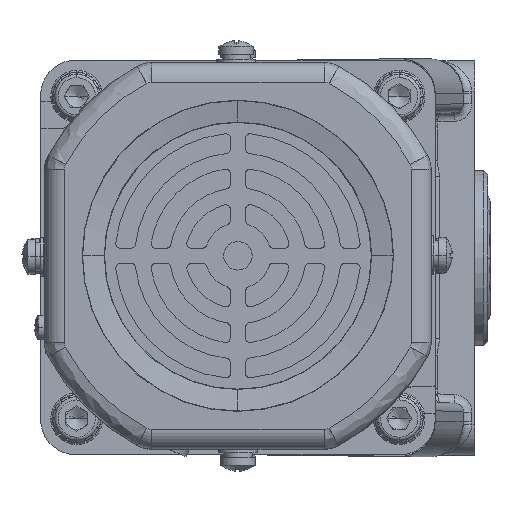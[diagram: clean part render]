
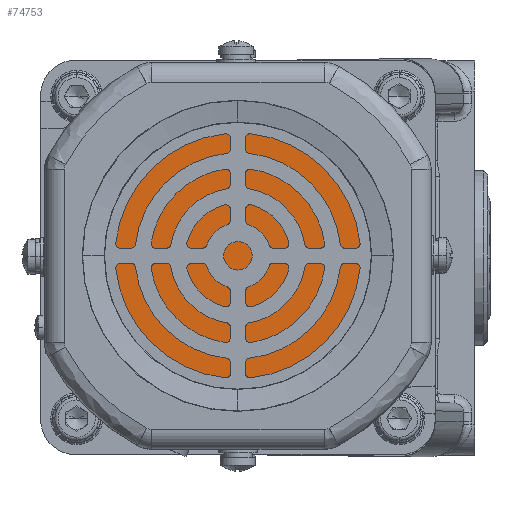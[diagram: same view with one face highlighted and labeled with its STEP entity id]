
A CAD part, top view. The second image highlights one B-rep face of the part: STEP entity #74753.
In plain terms, the highlighted planar face has unit normal (0, 0, 1) as drawn and (-1, 0, 0) by its records, which use the part's own axes.
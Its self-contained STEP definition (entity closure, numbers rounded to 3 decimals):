
#5074 = DIRECTION ( 'NONE',  ( 0., 0., -1. ) ) ;
#6810 = VERTEX_POINT ( 'NONE', #8847 ) ;
#8030 = VERTEX_POINT ( 'NONE', #32147 ) ;
#8847 = CARTESIAN_POINT ( 'NONE',  ( -72.752, -33.12, 206.308 ) ) ;
#12192 = FACE_OUTER_BOUND ( 'NONE', #35354, .T. ) ;
#24622 = CARTESIAN_POINT ( 'NONE',  ( -72.752, 43.68, 129.508 ) ) ;
#25252 = EDGE_CURVE ( 'NONE', #6810, #8030, #27315, .T. ) ;
#26516 = CARTESIAN_POINT ( 'NONE',  ( -72.752, -33.12, 129.508 ) ) ;
#27315 =( BOUNDED_CURVE ( )  B_SPLINE_CURVE ( 3, ( #64601, #26516, #24622, #32564 ),
 .UNSPECIFIED., .F., .F. ) 
 B_SPLINE_CURVE_WITH_KNOTS ( ( 4, 4 ),
 ( 0., 1. ),
 .UNSPECIFIED. ) 
 CURVE ( )  GEOMETRIC_REPRESENTATION_ITEM ( )  RATIONAL_B_SPLINE_CURVE ( ( 1., 0.333, 0.333, 1. ) ) 
 REPRESENTATION_ITEM ( '' )  );
#27870 = CARTESIAN_POINT ( 'NONE',  ( -72.752, 5.28, 206.308 ) ) ;
#29159 = CARTESIAN_POINT ( 'NONE',  ( -72.752, -33.12, 206.308 ) ) ;
#29173 = CARTESIAN_POINT ( 'NONE',  ( -72.752, -33.12, 283.108 ) ) ;
#29467 = CARTESIAN_POINT ( 'NONE',  ( -72.752, 43.68, 206.308 ) ) ;
#29781 = CARTESIAN_POINT ( 'NONE',  ( -72.752, 43.68, 283.108 ) ) ;
#32069 = AXIS2_PLACEMENT_3D ( 'NONE', #27870, #50546, #5074 ) ;
#32147 = CARTESIAN_POINT ( 'NONE',  ( -72.752, 43.68, 206.308 ) ) ;
#32564 = CARTESIAN_POINT ( 'NONE',  ( -72.752, 43.68, 206.308 ) ) ;
#34253 = EDGE_CURVE ( 'NONE', #8030, #6810, #51873, .T. ) ;
#35354 = EDGE_LOOP ( 'NONE', ( #46339, #70693 ) ) ;
#46339 = ORIENTED_EDGE ( 'NONE', *, *, #25252, .F. ) ;
#50228 = PLANE ( 'NONE',  #32069 ) ;
#50546 = DIRECTION ( 'NONE',  ( 1., 0., 0. ) ) ;
#51873 =( BOUNDED_CURVE ( )  B_SPLINE_CURVE ( 3, ( #29467, #29781, #29173, #29159 ),
 .UNSPECIFIED., .F., .T. ) 
 B_SPLINE_CURVE_WITH_KNOTS ( ( 4, 4 ),
 ( 0., 1. ),
 .UNSPECIFIED. ) 
 CURVE ( )  GEOMETRIC_REPRESENTATION_ITEM ( )  RATIONAL_B_SPLINE_CURVE ( ( 1., 0.333, 0.333, 1. ) ) 
 REPRESENTATION_ITEM ( '' )  );
#64601 = CARTESIAN_POINT ( 'NONE',  ( -72.752, -33.12, 206.308 ) ) ;
#70693 = ORIENTED_EDGE ( 'NONE', *, *, #34253, .F. ) ;
#74753 = ADVANCED_FACE ( 'NONE', ( #12192 ), #50228, .F. ) ;
